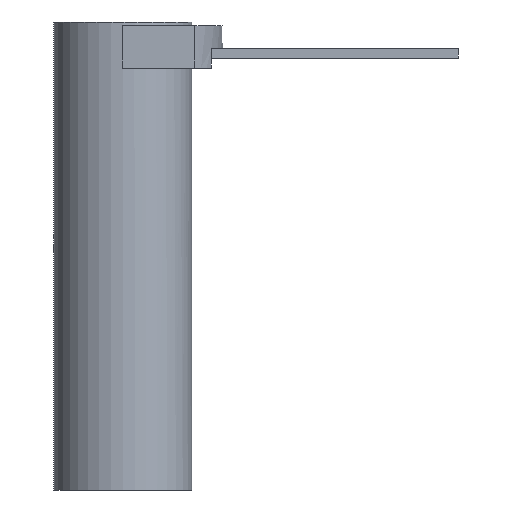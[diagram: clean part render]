
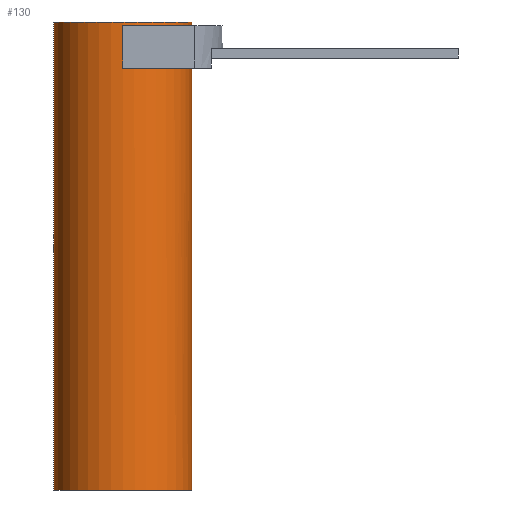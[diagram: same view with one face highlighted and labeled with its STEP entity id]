
A CAD part, front view. The second image highlights one B-rep face of the part: STEP entity #130.
In plain terms, the highlighted cylindrical face has radius 9 mm (diameter 18 mm), a partial arc.
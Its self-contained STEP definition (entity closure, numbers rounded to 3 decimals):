
#113=CYLINDRICAL_SURFACE('',#597,9.);
#130=ADVANCED_FACE('',(#175),#113,.T.);
#175=FACE_OUTER_BOUND('',#198,.T.);
#198=EDGE_LOOP('',(#301,#302,#303,#304,#305,#306,#307,#308,#309,#310));
#224=CIRCLE('',#577,9.);
#225=CIRCLE('',#580,9.);
#230=CIRCLE('',#590,9.);
#233=CIRCLE('',#595,9.);
#234=CIRCLE('',#596,9.);
#301=ORIENTED_EDGE('',*,*,#452,.F.);
#302=ORIENTED_EDGE('',*,*,#457,.F.);
#303=ORIENTED_EDGE('',*,*,#458,.T.);
#304=ORIENTED_EDGE('',*,*,#455,.T.);
#305=ORIENTED_EDGE('',*,*,#459,.F.);
#306=ORIENTED_EDGE('',*,*,#453,.F.);
#307=ORIENTED_EDGE('',*,*,#438,.F.);
#308=ORIENTED_EDGE('',*,*,#435,.F.);
#309=ORIENTED_EDGE('',*,*,#434,.F.);
#310=ORIENTED_EDGE('',*,*,#448,.F.);
#388=VERTEX_POINT('',#794);
#390=VERTEX_POINT('',#798);
#391=VERTEX_POINT('',#802);
#393=VERTEX_POINT('',#808);
#398=VERTEX_POINT('',#825);
#400=VERTEX_POINT('',#833);
#401=VERTEX_POINT('',#837);
#402=VERTEX_POINT('',#839);
#403=VERTEX_POINT('',#841);
#404=VERTEX_POINT('',#843);
#434=EDGE_CURVE('',#390,#388,#224,.T.);
#435=EDGE_CURVE('',#388,#391,#498,.T.);
#438=EDGE_CURVE('',#391,#393,#225,.T.);
#448=EDGE_CURVE('',#398,#390,#508,.T.);
#452=EDGE_CURVE('',#400,#398,#230,.T.);
#453=EDGE_CURVE('',#393,#401,#510,.T.);
#455=EDGE_CURVE('',#403,#402,#511,.T.);
#457=EDGE_CURVE('',#404,#400,#512,.T.);
#458=EDGE_CURVE('',#404,#403,#233,.T.);
#459=EDGE_CURVE('',#401,#402,#234,.T.);
#498=LINE('',#801,#537);
#508=LINE('',#827,#547);
#510=LINE('',#836,#549);
#511=LINE('',#840,#550);
#512=LINE('',#844,#551);
#537=VECTOR('',#647,1.);
#547=VECTOR('',#671,1.);
#549=VECTOR('',#685,1.);
#550=VECTOR('',#688,1.);
#551=VECTOR('',#691,1.);
#577=AXIS2_PLACEMENT_3D('',#799,#643,#644);
#580=AXIS2_PLACEMENT_3D('',#807,#652,#653);
#590=AXIS2_PLACEMENT_3D('',#834,#681,#682);
#595=AXIS2_PLACEMENT_3D('',#846,#694,#695);
#596=AXIS2_PLACEMENT_3D('',#847,#696,#697);
#597=AXIS2_PLACEMENT_3D('',#848,#698,#699);
#643=DIRECTION('',(0.,0.,1.));
#644=DIRECTION('',(-1.,0.,0.));
#647=DIRECTION('',(0.,0.,1.));
#652=DIRECTION('',(0.,0.,1.));
#653=DIRECTION('',(0.565,-0.825,0.));
#671=DIRECTION('',(0.,0.,-1.));
#681=DIRECTION('',(0.,0.,-1.));
#682=DIRECTION('',(-1.,0.,0.));
#685=DIRECTION('',(0.,0.,-1.));
#688=DIRECTION('',(0.,0.,-1.));
#691=DIRECTION('',(0.,0.,-1.));
#694=DIRECTION('',(0.,0.,-1.));
#695=DIRECTION('',(0.,1.,0.));
#696=DIRECTION('',(0.,0.,-1.));
#697=DIRECTION('',(0.,1.,0.));
#698=DIRECTION('',(0.,0.,-1.));
#699=DIRECTION('',(0.,-1.,0.));
#794=CARTESIAN_POINT('',(6.708,-6.,55.));
#798=CARTESIAN_POINT('',(0.,-9.,55.));
#799=CARTESIAN_POINT('',(0.,0.,55.));
#801=CARTESIAN_POINT('',(6.708,-6.,54.98));
#802=CARTESIAN_POINT('',(6.708,-6.,57.5));
#807=CARTESIAN_POINT('',(0.,0.,57.5));
#808=CARTESIAN_POINT('',(9.,0.,57.5));
#825=CARTESIAN_POINT('',(0.,-9.,60.5));
#827=CARTESIAN_POINT('',(0.,-9.,61.02));
#833=CARTESIAN_POINT('',(9.,0.,60.5));
#834=CARTESIAN_POINT('',(0.,0.,60.5));
#836=CARTESIAN_POINT('',(9.,0.,0.));
#837=CARTESIAN_POINT('',(9.,0.,0.));
#839=CARTESIAN_POINT('',(-9.,0.,0.));
#840=CARTESIAN_POINT('',(-9.,0.,0.));
#841=CARTESIAN_POINT('',(-9.,0.,61.));
#843=CARTESIAN_POINT('',(9.,0.,61.));
#844=CARTESIAN_POINT('',(9.,0.,0.));
#846=CARTESIAN_POINT('',(0.,0.,61.));
#847=CARTESIAN_POINT('',(0.,0.,0.));
#848=CARTESIAN_POINT('',(0.,0.,61.));
